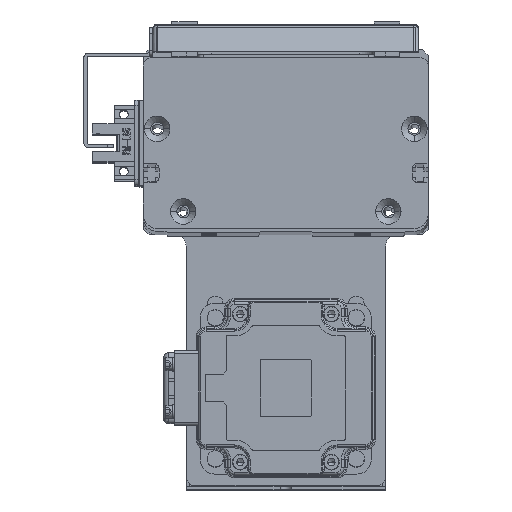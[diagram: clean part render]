
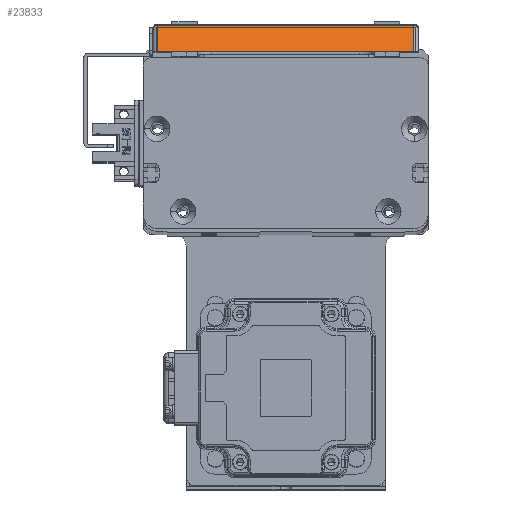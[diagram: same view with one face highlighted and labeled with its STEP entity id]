
A CAD part, top view. The second image highlights one B-rep face of the part: STEP entity #23833.
In plain terms, the highlighted planar face has unit normal (0, 0.707, 0.707) as drawn and (-0.707, 0, -0.707) by its records, which use the part's own axes.
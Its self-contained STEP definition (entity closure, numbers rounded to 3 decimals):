
#4014 = CARTESIAN_POINT ( 'NONE',  ( -66.5, 93.4, 4.1 ) ) ;
#4126 = EDGE_CURVE ( 'NONE', #26162, #25800, #55960, .T. ) ;
#5338 = CARTESIAN_POINT ( 'NONE',  ( -68., 1.7, 5.6 ) ) ;
#5408 = VECTOR ( 'NONE', #21025, 1000. ) ;
#5657 = VECTOR ( 'NONE', #68450, 1000. ) ;
#6857 = VECTOR ( 'NONE', #32673, 1000. ) ;
#16966 = EDGE_CURVE ( 'NONE', #46226, #54428, #52926, .T. ) ;
#17293 = CARTESIAN_POINT ( 'NONE',  ( -57.298, 1.7, -5.102 ) ) ;
#18034 = AXIS2_PLACEMENT_3D ( 'NONE', #23799, #67085, #18627 ) ;
#18627 = DIRECTION ( 'NONE',  ( -0.707, 0., 0.707 ) ) ;
#21025 = DIRECTION ( 'NONE',  ( 0., 1., 0. ) ) ;
#22058 = FACE_OUTER_BOUND ( 'NONE', #40107, .T. ) ;
#23129 = VECTOR ( 'NONE', #53192, 1000. ) ;
#23799 = CARTESIAN_POINT ( 'NONE',  ( -68., 93.4, 5.6 ) ) ;
#23833 = ADVANCED_FACE ( 'NONE', ( #22058 ), #40256, .T. ) ;
#25800 = VERTEX_POINT ( 'NONE', #68904 ) ;
#25988 = ORIENTED_EDGE ( 'NONE', *, *, #16966, .T. ) ;
#26162 = VERTEX_POINT ( 'NONE', #17293 ) ;
#31987 = CARTESIAN_POINT ( 'NONE',  ( -57.298, 91.7, -5.102 ) ) ;
#32673 = DIRECTION ( 'NONE',  ( 0., -1., 0. ) ) ;
#36637 = CARTESIAN_POINT ( 'NONE',  ( -68., 91.7, 5.6 ) ) ;
#38490 = ORIENTED_EDGE ( 'NONE', *, *, #42210, .T. ) ;
#38894 = LINE ( 'NONE', #47778, #6857 ) ;
#40107 = EDGE_LOOP ( 'NONE', ( #69678, #64817, #25988, #38490 ) ) ;
#40256 = PLANE ( 'NONE',  #18034 ) ;
#42210 = EDGE_CURVE ( 'NONE', #54428, #26162, #38894, .T. ) ;
#46226 = VERTEX_POINT ( 'NONE', #49091 ) ;
#47778 = CARTESIAN_POINT ( 'NONE',  ( -57.298, 93.4, -5.102 ) ) ;
#48423 = LINE ( 'NONE', #4014, #5408 ) ;
#49091 = CARTESIAN_POINT ( 'NONE',  ( -66.5, 91.7, 4.1 ) ) ;
#52926 = LINE ( 'NONE', #36637, #5657 ) ;
#53192 = DIRECTION ( 'NONE',  ( -0.707, 0., 0.707 ) ) ;
#54428 = VERTEX_POINT ( 'NONE', #31987 ) ;
#55960 = LINE ( 'NONE', #5338, #23129 ) ;
#59564 = EDGE_CURVE ( 'NONE', #25800, #46226, #48423, .T. ) ;
#64817 = ORIENTED_EDGE ( 'NONE', *, *, #59564, .T. ) ;
#67085 = DIRECTION ( 'NONE',  ( -0.707, 0., -0.707 ) ) ;
#68450 = DIRECTION ( 'NONE',  ( 0.707, 0., -0.707 ) ) ;
#68904 = CARTESIAN_POINT ( 'NONE',  ( -66.5, 1.7, 4.1 ) ) ;
#69678 = ORIENTED_EDGE ( 'NONE', *, *, #4126, .T. ) ;
